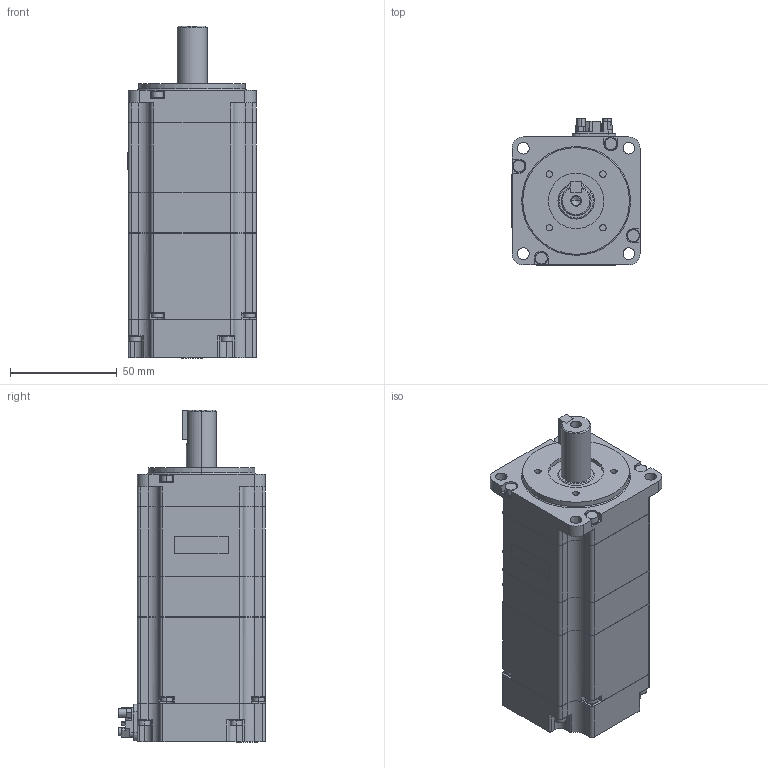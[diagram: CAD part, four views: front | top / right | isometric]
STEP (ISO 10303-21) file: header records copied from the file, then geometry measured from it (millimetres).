
FILE_DESCRIPTION( (''), '2;1');
FILE_NAME ('sgmxj_04aua6ca_.stp','2023-11-07T09:28:19',(''),(''),'spGate 15.6.6','','');
FILE_SCHEMA (('AUTOMOTIVE_DESIGN'));
Length unit declared in the file: millimetre
Products named in the file (3): Assembly; sgmxj_04aua6ca_-prt0; sgmxj_04aua6ca_-prt1
Assembly tree (2 placements, depth 2):
  Assembly
    sgmxj_04aua6ca_-prt0
    sgmxj_04aua6ca_-prt1
Bounding box: 60.1 x 68.8 x 155.6 mm (x, y, z)
Volume: 408649.6 mm3; surface area: 42078.8 mm2
Topology: 2 solids, 2 shells, 534 faces, 1410 edges, 935 vertices
Faces by surface type: plane 306, cylinder 221, bspline 7
Entity records: 27902 total; most frequent: CARTESIAN_POINT 3113, DIRECTION 2838, ORIENTED_EDGE 2816, COLOUR_RGB 1944, PRESENTATION_STYLE_ASSIGNMENT 1944, STYLED_ITEM 1944, EDGE_CURVE 1408, DRAUGHTING_PRE_DEFINED_CURVE_FONT 1408
